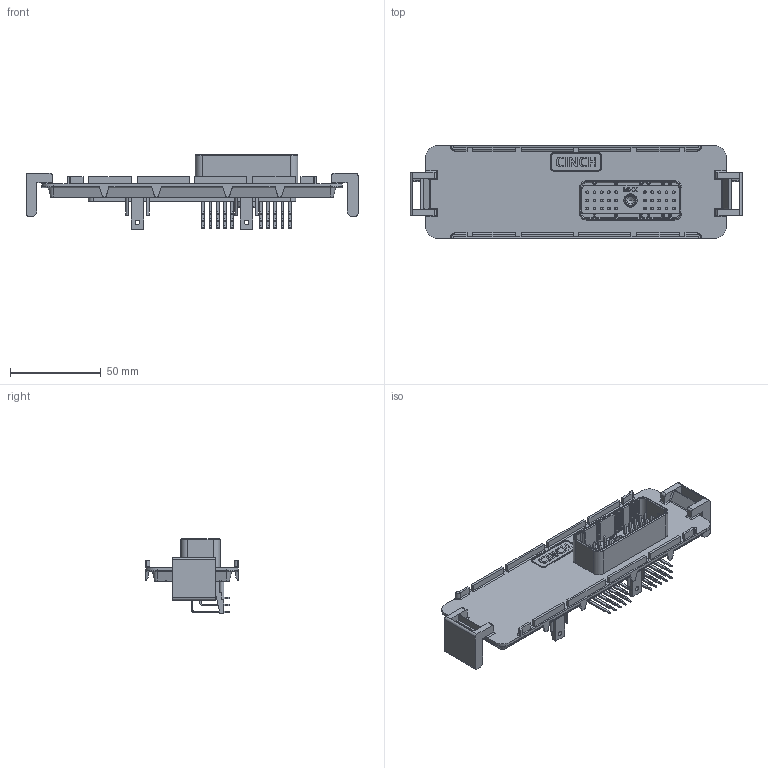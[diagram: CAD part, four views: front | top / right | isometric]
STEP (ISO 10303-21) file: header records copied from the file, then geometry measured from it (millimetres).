
FILE_DESCRIPTION((''),'2;1');
FILE_NAME('5810130045_ASM','2008-07-08T',('eake'),(''),'PRO/ENGINEER BY PARAMETRIC TECHNOLOGY CORPORATION, 2005451','PRO/ENGINEER BY PARAMETRIC TECHNOLOGY CORPORATION, 2005451','');
FILE_SCHEMA(('CONFIG_CONTROL_DESIGN'));
Length unit declared in the file: inch
Products named in the file (9): FOR4828770158; 4624111583HEX; 4828770158_ASM; 4040011205_TYPE1; 4040011206_TYPE2; 4040011207_TYPE3; 5810148005_15PIN_EPOXY; 4630899118; 5810130045_ASM
Assembly tree (36 placements, depth 3):
  5810130045_ASM
    4828770158_ASM
      FOR4828770158
      4624111583HEX
    4040011205_TYPE1  x10
    4040011206_TYPE2  x10
    4040011207_TYPE3  x10
    5810148005_15PIN_EPOXY  x2
    4630899118
Bounding box: 182.63 x 50.93 x 40.89 mm (x, y, z)
Volume: 44224.5 mm3; surface area: 59668.3 mm2
Topology: 35 solids, 35 shells, 3475 faces, 9544 edges, 6114 vertices
Faces by surface type: plane 2421, cylinder 964, torus 46, sphere 28, cone 10, bspline 6
Entity records: 64838 total; most frequent: CARTESIAN_POINT 13192, ORIENTED_EDGE 10828, DIRECTION 10439, EDGE_CURVE 5414, VECTOR 4221, LINE 4221, VERTEX_POINT 3454, AXIS2_PLACEMENT_3D 3109
